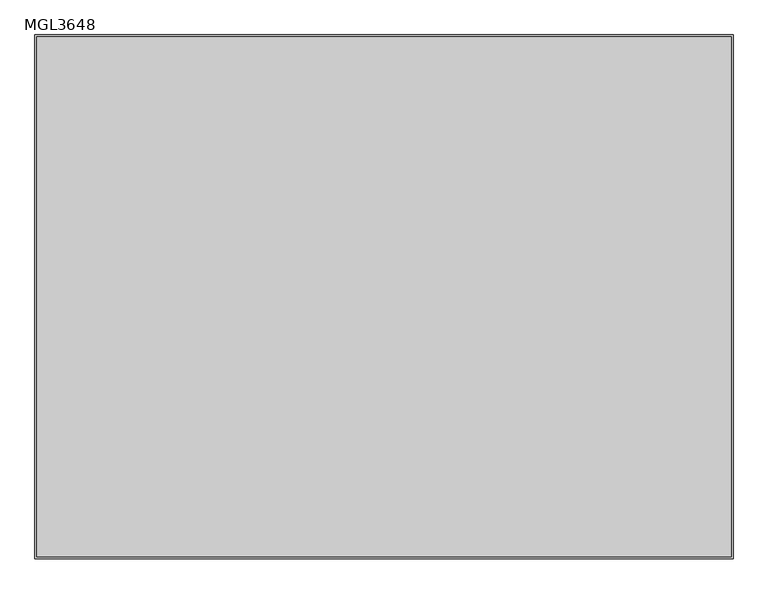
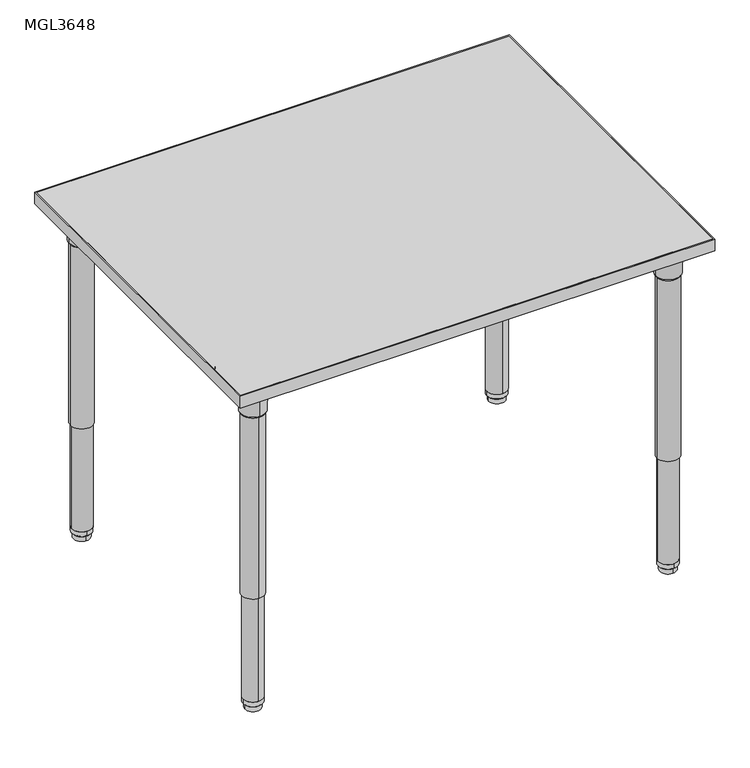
"""IFC4 building model written with IfcOpenShell, lengths in millimetres: furniture geometry, ERG-Mingle-Table-Rectangle : MGL3648."""

from ifc_helpers import new_model, si_unit, point, frame, frame_2d, origin, place, context, project, spatial, polyline, circle_curve, trimmed, segment, composite_curve, outline, extrude, source, transform, mapped, element, save
from ifc_brep_helpers import plane_surface, cylinder_surface, revolved_surface, advanced_brep


def mgl3648_3a165951(model_context):
    return source(origin(), model_context, "Body", "SolidModel", [
        advanced_brep(
        [(503.3646842, -381.0, 802.9933069), (563.4353158, -381.0, 802.9933069), (533.4, -381.0, 802.9933069), (501.256117, -381.0, 806.7580481), (565.543883, -381.0, 806.7580481), (500.3206351, -381.0, 860.1631458), (566.4793649, -381.0, 860.1631458), (496.871083, -381.0, 866.5198315), (569.928917, -381.0, 866.5198315), (496.871083, -381.0, 879.2198315), (569.928917, -381.0, 879.2198315), (533.4, -381.0, 879.2198315)],
        [
            (0, 1, circle_curve(frame((533.4, -381.0, 802.9933069), z_axis=(0.0, 0.0, -1.0), x_axis=(1.0, 0.0, 0.0)), 30.0353158)),
            (1, 2),
            (2, 0),
            (1, 0, circle_curve(frame((533.4, -381.0, 802.9933069), z_axis=(0.0, 0.0, -1.0), x_axis=(1.0, 0.0, 0.0)), 30.0353158)),
            (3, 4, circle_curve(frame((533.4, -381.0, 806.7580481), z_axis=(0.0, 0.0, -1.0), x_axis=(1.0, 0.0, 0.0)), 32.143883)),
            (4, 1),
            (0, 3),
            (4, 3, circle_curve(frame((533.4, -381.0, 806.7580481), z_axis=(0.0, 0.0, -1.0), x_axis=(1.0, 0.0, 0.0)), 32.143883)),
            (5, 6, circle_curve(frame((533.4, -381.0, 860.1631458), z_axis=(0.0, 0.0, -1.0), x_axis=(1.0, 0.0, 0.0)), 33.0793649)),
            (6, 4),
            (3, 5),
            (6, 5, circle_curve(frame((533.4, -381.0, 860.1631458), z_axis=(0.0, 0.0, -1.0), x_axis=(1.0, 0.0, 0.0)), 33.0793649)),
            (7, 8, circle_curve(frame((533.4, -381.0, 866.5198315), z_axis=(0.0, 0.0, -1.0), x_axis=(1.0, 0.0, 0.0)), 36.528917)),
            (8, 6),
            (5, 7),
            (8, 7, circle_curve(frame((533.4, -381.0, 866.5198315), z_axis=(0.0, 0.0, -1.0), x_axis=(1.0, 0.0, 0.0)), 36.528917)),
            (9, 10, circle_curve(frame((533.4, -381.0, 879.2198315), z_axis=(0.0, 0.0, -1.0), x_axis=(1.0, 0.0, 0.0)), 36.528917)),
            (10, 8),
            (7, 9),
            (10, 9, circle_curve(frame((533.4, -381.0, 879.2198315), z_axis=(0.0, 0.0, -1.0), x_axis=(1.0, 0.0, 0.0)), 36.528917)),
            (11, 10),
            (9, 11),
        ],
        [
            plane_surface(frame((533.4, -381.0, 802.9933069), z_axis=(0.0, 0.0, -1.0), x_axis=(1.0, 0.0, 0.0))),
            revolved_surface(polyline([(563.4353158, -381.0, 802.9933069), (565.543883, -381.0, 806.7580481)]), (533.4, -381.0, 879.2198315), (0.0, 0.0, 1.0)),
            revolved_surface(polyline([(565.543883, -381.0, 806.7580481), (566.4793649, -381.0, 860.1631458)]), (533.4, -381.0, 879.2198315), (0.0, 0.0, 1.0)),
            revolved_surface(polyline([(566.4793649, -381.0, 860.1631458), (569.928917, -381.0, 866.5198315)]), (533.4, -381.0, 879.2198315), (0.0, 0.0, 1.0)),
            cylinder_surface(frame((533.4, -381.0, 879.2198315), z_axis=(0.0, 0.0, 1.0), x_axis=(1.0, 0.0, 0.0)), 36.528917),
            plane_surface(frame((533.4, -381.0, 879.2198315), z_axis=(0.0, 0.0, 1.0), x_axis=(1.0, 0.0, 0.0))),
        ],
        [
            (0, [[1, 2, 3]]),
            (0, [[4, -3, -2]]),
            (1, [[5, 6, -1, 7]]),
            (1, [[8, -7, -4, -6]]),
            (2, [[9, 10, -5, 11]]),
            (2, [[12, -11, -8, -10]]),
            (3, [[13, 14, -9, 15]]),
            (3, [[16, -15, -12, -14]]),
            (4, [[17, 18, -13, 19]]),
            (4, [[20, -19, -16, -18]]),
            (5, [[21, -17, 22]]),
            (5, [[-22, -20, -21]]),
        ],
    ),
        extrude(outline(composite_curve([segment(polyline([(579.273768, -298.4223426), (579.273768, -412.1483754)]), True, "CONTINUOUS"), segment(trimmed(circle_curve(frame_2d((563.398768, -412.1483754)), 15.875), [point((579.273768, -412.1483754))], [point((563.398768, -428.0233754))], False, "CARTESIAN"), True, "CONTINUOUS"), segment(polyline([(563.398768, -428.0233754), (449.6864205, -428.0233754)]), True, "CONTINUOUS"), segment(trimmed(circle_curve(frame_2d((449.6864205, -415.3233754)), 12.7), [point((449.6864205, -428.0233754))], [point((437.0491923, -414.0622394))], False, "CARTESIAN"), True, "CONTINUOUS"), segment(trimmed(circle_curve(frame_2d((579.5486077, -428.2830117)), 143.2072406), [point((437.0491923, -414.0622394))], [point((565.3111525, -285.7852622))], False, "CARTESIAN"), True, "CONTINUOUS"), segment(trimmed(circle_curve(frame_2d((566.573768, -298.4223426)), 12.7), [point((565.3111525, -285.7852622))], [point((579.273768, -298.4223426))], False, "CARTESIAN"), True, "CONTINUOUS")], self_intersect=False)), frame((0.0, 0.0, 879.2198315), z_axis=(0.0, 0.0, 1.0), x_axis=(1.0, 0.0, 0.0)), (0.0, 0.0, 1.0), 3.4301685),
        extrude(outline(composite_curve([segment(trimmed(circle_curve(frame_2d((533.4, -381.0)), 28.575), [point((561.975, -381.0))], [point((504.825, -381.0))], False, "CARTESIAN"), True, "CONTINUOUS"), segment(trimmed(circle_curve(frame_2d((533.4, -381.0)), 28.575), [point((504.825, -381.0))], [point((561.975, -381.0))], False, "CARTESIAN"), True, "CONTINUOUS")], self_intersect=False)), frame((0.0, 0.0, 310.7876979), z_axis=(0.0, 0.0, 1.0), x_axis=(1.0, 0.0, 0.0)), (0.0, 0.0, 1.0), 495.4089866),
        extrude(outline(composite_curve([segment(trimmed(circle_curve(frame_2d((533.4, -381.0)), 25.4), [point((558.8, -381.0))], [point((508.0, -381.0))], False, "CARTESIAN"), True, "CONTINUOUS"), segment(trimmed(circle_curve(frame_2d((533.4, -381.0)), 25.4), [point((508.0, -381.0))], [point((558.8, -381.0))], False, "CARTESIAN"), True, "CONTINUOUS")], self_intersect=False)), frame((0.0, 0.0, 28.9580435), z_axis=(0.0, 0.0, 1.0), x_axis=(1.0, 0.0, 0.0)), (0.0, 0.0, 1.0), 329.1049119),
        advanced_brep(
        [(533.4, -355.7649896, 28.9580185), (533.4, -406.2350104, 28.9580185), (533.4, -381.0, 28.9580185), (533.4, -355.900761, 16.3032949), (533.4, -406.099239, 16.3032949), (533.4, -357.4160619, 14.7291007), (533.4, -404.5839381, 14.7291007), (533.4, -359.8591422, 14.7291007), (533.4, -402.1408578, 14.7291007), (533.4, -360.0521336, 0.0), (533.4, -401.9478664, 0.0), (533.4, -381.0, 0.0)],
        [
            (0, 1, circle_curve(frame((533.4, -381.0, 28.9580185), z_axis=(0.0, 0.0, 1.0), x_axis=(0.0, -1.0, 0.0)), 25.2350104)),
            (1, 2),
            (2, 0),
            (1, 0, circle_curve(frame((533.4, -381.0, 28.9580185), z_axis=(0.0, 0.0, 1.0), x_axis=(0.0, -1.0, 0.0)), 25.2350104)),
            (3, 4, circle_curve(frame((533.4, -381.0, 16.3032949), z_axis=(0.0, 0.0, 1.0), x_axis=(0.0, -1.0, 0.0)), 25.099239)),
            (4, 1),
            (0, 3),
            (4, 3, circle_curve(frame((533.4, -381.0, 16.3032949), z_axis=(0.0, 0.0, 1.0), x_axis=(0.0, -1.0, 0.0)), 25.099239)),
            (5, 6, circle_curve(frame((533.4, -381.0, 14.7291007), z_axis=(0.0, 0.0, 1.0), x_axis=(0.0, -1.0, 0.0)), 23.5839381)),
            (6, 4),
            (3, 5),
            (6, 5, circle_curve(frame((533.4, -381.0, 14.7291007), z_axis=(0.0, 0.0, 1.0), x_axis=(0.0, -1.0, 0.0)), 23.5839381)),
            (7, 8, circle_curve(frame((533.4, -381.0, 14.7291007), z_axis=(0.0, 0.0, 1.0), x_axis=(0.0, -1.0, 0.0)), 21.1408578)),
            (8, 6),
            (5, 7),
            (8, 7, circle_curve(frame((533.4, -381.0, 14.7291007), z_axis=(0.0, 0.0, 1.0), x_axis=(0.0, -1.0, 0.0)), 21.1408578)),
            (9, 10, circle_curve(frame((533.4, -381.0, 0.0), z_axis=(0.0, 0.0, 1.0), x_axis=(0.0, -1.0, 0.0)), 20.9478664)),
            (10, 8),
            (7, 9),
            (10, 9, circle_curve(frame((533.4, -381.0, 0.0), z_axis=(0.0, 0.0, 1.0), x_axis=(0.0, -1.0, 0.0)), 20.9478664)),
            (11, 10),
            (9, 11),
        ],
        [
            plane_surface(frame((533.4, -381.0, 28.9580185), z_axis=(0.0, 0.0, 1.0), x_axis=(0.0, -1.0, 0.0))),
            revolved_surface(polyline([(533.4, -406.2350104, 28.9580185), (533.4, -406.099239, 16.3032949)]), (533.4, -381.0, 0.0), (0.0, 0.0, -1.0)),
            revolved_surface(polyline([(533.4, -406.099239, 16.3032949), (533.4, -404.5839381, 14.7291007)]), (533.4, -381.0, 0.0), (0.0, 0.0, -1.0)),
            plane_surface(frame((533.4, -381.0, 14.7291007), z_axis=(0.0, 0.0, -1.0), x_axis=(0.0, -1.0, 0.0))),
            revolved_surface(polyline([(533.4, -402.1408578, 14.7291007), (533.4, -401.9478664, 0.0)]), (533.4, -381.0, 0.0), (0.0, 0.0, -1.0)),
            plane_surface(frame((533.4, -381.0, 0.0), z_axis=(0.0, 0.0, -1.0), x_axis=(0.0, -1.0, 0.0))),
        ],
        [
            (0, [[1, 2, 3]]),
            (0, [[4, -3, -2]]),
            (1, [[5, 6, -1, 7]]),
            (1, [[8, -7, -4, -6]]),
            (2, [[9, 10, -5, 11]]),
            (2, [[12, -11, -8, -10]]),
            (3, [[13, 14, -9, 15]]),
            (3, [[16, -15, -12, -14]]),
            (4, [[17, 18, -13, 19]]),
            (4, [[20, -19, -16, -18]]),
            (5, [[21, -17, 22]]),
            (5, [[-22, -20, -21]]),
        ],
    ),
        advanced_brep(
        [(-533.4, -350.9646842, 802.9933069), (-533.4, -411.0353158, 802.9933069), (-533.4, -381.0, 802.9933069), (-533.4, -348.856117, 806.7580481), (-533.4, -413.143883, 806.7580481), (-533.4, -347.9206351, 860.1631458), (-533.4, -414.0793649, 860.1631458), (-533.4, -344.471083, 866.5198315), (-533.4, -417.528917, 866.5198315), (-533.4, -344.471083, 879.2198315), (-533.4, -417.528917, 879.2198315), (-533.4, -381.0, 879.2198315)],
        [
            (0, 1, circle_curve(frame((-533.4, -381.0, 802.9933069), z_axis=(0.0, 0.0, -1.0), x_axis=(0.0, -1.0, 0.0)), 30.0353158)),
            (1, 2),
            (2, 0),
            (1, 0, circle_curve(frame((-533.4, -381.0, 802.9933069), z_axis=(0.0, 0.0, -1.0), x_axis=(0.0, -1.0, 0.0)), 30.0353158)),
            (3, 4, circle_curve(frame((-533.4, -381.0, 806.7580481), z_axis=(0.0, 0.0, -1.0), x_axis=(0.0, -1.0, 0.0)), 32.143883)),
            (4, 1),
            (0, 3),
            (4, 3, circle_curve(frame((-533.4, -381.0, 806.7580481), z_axis=(0.0, 0.0, -1.0), x_axis=(0.0, -1.0, 0.0)), 32.143883)),
            (5, 6, circle_curve(frame((-533.4, -381.0, 860.1631458), z_axis=(0.0, 0.0, -1.0), x_axis=(0.0, -1.0, 0.0)), 33.0793649)),
            (6, 4),
            (3, 5),
            (6, 5, circle_curve(frame((-533.4, -381.0, 860.1631458), z_axis=(0.0, 0.0, -1.0), x_axis=(0.0, -1.0, 0.0)), 33.0793649)),
            (7, 8, circle_curve(frame((-533.4, -381.0, 866.5198315), z_axis=(0.0, 0.0, -1.0), x_axis=(0.0, -1.0, 0.0)), 36.528917)),
            (8, 6),
            (5, 7),
            (8, 7, circle_curve(frame((-533.4, -381.0, 866.5198315), z_axis=(0.0, 0.0, -1.0), x_axis=(0.0, -1.0, 0.0)), 36.528917)),
            (9, 10, circle_curve(frame((-533.4, -381.0, 879.2198315), z_axis=(0.0, 0.0, -1.0), x_axis=(0.0, -1.0, 0.0)), 36.528917)),
            (10, 8),
            (7, 9),
            (10, 9, circle_curve(frame((-533.4, -381.0, 879.2198315), z_axis=(0.0, 0.0, -1.0), x_axis=(0.0, -1.0, 0.0)), 36.528917)),
            (11, 10),
            (9, 11),
        ],
        [
            plane_surface(frame((-533.4, -381.0, 802.9933069), z_axis=(0.0, 0.0, -1.0), x_axis=(0.0, -1.0, 0.0))),
            revolved_surface(polyline([(-533.4, -411.0353158, 802.9933069), (-533.4, -413.143883, 806.7580481)]), (-533.4, -381.0, 879.2198315), (0.0, 0.0, 1.0)),
            revolved_surface(polyline([(-533.4, -413.143883, 806.7580481), (-533.4, -414.0793649, 860.1631458)]), (-533.4, -381.0, 879.2198315), (0.0, 0.0, 1.0)),
            revolved_surface(polyline([(-533.4, -414.0793649, 860.1631458), (-533.4, -417.528917, 866.5198315)]), (-533.4, -381.0, 879.2198315), (0.0, 0.0, 1.0)),
            cylinder_surface(frame((-533.4, -381.0, 879.2198315), z_axis=(0.0, 0.0, 1.0), x_axis=(0.0, -1.0, 0.0)), 36.528917),
            plane_surface(frame((-533.4, -381.0, 879.2198315), z_axis=(0.0, 0.0, 1.0), x_axis=(0.0, -1.0, 0.0))),
        ],
        [
            (0, [[1, 2, 3]]),
            (0, [[4, -3, -2]]),
            (1, [[5, 6, -1, 7]]),
            (1, [[8, -7, -4, -6]]),
            (2, [[9, 10, -5, 11]]),
            (2, [[12, -11, -8, -10]]),
            (3, [[13, 14, -9, 15]]),
            (3, [[16, -15, -12, -14]]),
            (4, [[17, 18, -13, 19]]),
            (4, [[20, -19, -16, -18]]),
            (5, [[21, -17, 22]]),
            (5, [[-22, -20, -21]]),
        ],
    ),
        extrude(outline(composite_curve([segment(polyline([(-450.8223426, -426.873768), (-564.5483754, -426.873768)]), True, "CONTINUOUS"), segment(trimmed(circle_curve(frame_2d((-564.5483754, -410.998768)), 15.875), [point((-564.5483754, -426.873768))], [point((-580.4233754, -410.998768))], False, "CARTESIAN"), True, "CONTINUOUS"), segment(polyline([(-580.4233754, -410.998768), (-580.4233754, -297.2864205)]), True, "CONTINUOUS"), segment(trimmed(circle_curve(frame_2d((-567.7233754, -297.2864205)), 12.7), [point((-580.4233754, -297.2864205))], [point((-566.4622394, -284.6491923))], False, "CARTESIAN"), True, "CONTINUOUS"), segment(trimmed(circle_curve(frame_2d((-580.6830117, -427.1486077)), 143.2072406), [point((-566.4622394, -284.6491923))], [point((-438.1852622, -412.9111525))], False, "CARTESIAN"), True, "CONTINUOUS"), segment(trimmed(circle_curve(frame_2d((-450.8223426, -414.173768)), 12.7), [point((-438.1852622, -412.9111525))], [point((-450.8223426, -426.873768))], False, "CARTESIAN"), True, "CONTINUOUS")], self_intersect=False)), frame((0.0, 0.0, 879.2198315), z_axis=(0.0, 0.0, 1.0), x_axis=(1.0, 0.0, 0.0)), (0.0, 0.0, 1.0), 3.4301685),
        extrude(outline(composite_curve([segment(trimmed(circle_curve(frame_2d((-533.4, -381.0)), 28.575), [point((-533.4, -409.575))], [point((-533.4, -352.425))], False, "CARTESIAN"), True, "CONTINUOUS"), segment(trimmed(circle_curve(frame_2d((-533.4, -381.0)), 28.575), [point((-533.4, -352.425))], [point((-533.4, -409.575))], False, "CARTESIAN"), True, "CONTINUOUS")], self_intersect=False)), frame((0.0, 0.0, 310.7876979), z_axis=(0.0, 0.0, 1.0), x_axis=(1.0, 0.0, 0.0)), (0.0, 0.0, 1.0), 495.4089866),
        extrude(outline(composite_curve([segment(trimmed(circle_curve(frame_2d((-533.4, -381.0)), 25.4), [point((-533.4, -406.4))], [point((-533.4, -355.6))], False, "CARTESIAN"), True, "CONTINUOUS"), segment(trimmed(circle_curve(frame_2d((-533.4, -381.0)), 25.4), [point((-533.4, -355.6))], [point((-533.4, -406.4))], False, "CARTESIAN"), True, "CONTINUOUS")], self_intersect=False)), frame((0.0, 0.0, 28.9580435), z_axis=(0.0, 0.0, 1.0), x_axis=(1.0, 0.0, 0.0)), (0.0, 0.0, 1.0), 329.1049119),
        advanced_brep(
        [(-508.1649896, -381.0, 28.9580185), (-558.6350104, -381.0, 28.9580185), (-533.4, -381.0, 28.9580185), (-508.300761, -381.0, 16.3032949), (-558.499239, -381.0, 16.3032949), (-509.8160619, -381.0, 14.7291007), (-556.9839381, -381.0, 14.7291007), (-512.2591422, -381.0, 14.7291007), (-554.5408578, -381.0, 14.7291007), (-512.4521336, -381.0, 0.0), (-554.3478664, -381.0, 0.0), (-533.4, -381.0, 0.0)],
        [
            (0, 1, circle_curve(frame((-533.4, -381.0, 28.9580185), z_axis=(0.0, 0.0, 1.0), x_axis=(-1.0, 0.0, 0.0)), 25.2350104)),
            (1, 2),
            (2, 0),
            (1, 0, circle_curve(frame((-533.4, -381.0, 28.9580185), z_axis=(0.0, 0.0, 1.0), x_axis=(-1.0, 0.0, 0.0)), 25.2350104)),
            (3, 4, circle_curve(frame((-533.4, -381.0, 16.3032949), z_axis=(0.0, 0.0, 1.0), x_axis=(-1.0, 0.0, 0.0)), 25.099239)),
            (4, 1),
            (0, 3),
            (4, 3, circle_curve(frame((-533.4, -381.0, 16.3032949), z_axis=(0.0, 0.0, 1.0), x_axis=(-1.0, 0.0, 0.0)), 25.099239)),
            (5, 6, circle_curve(frame((-533.4, -381.0, 14.7291007), z_axis=(0.0, 0.0, 1.0), x_axis=(-1.0, 0.0, 0.0)), 23.5839381)),
            (6, 4),
            (3, 5),
            (6, 5, circle_curve(frame((-533.4, -381.0, 14.7291007), z_axis=(0.0, 0.0, 1.0), x_axis=(-1.0, 0.0, 0.0)), 23.5839381)),
            (7, 8, circle_curve(frame((-533.4, -381.0, 14.7291007), z_axis=(0.0, 0.0, 1.0), x_axis=(-1.0, 0.0, 0.0)), 21.1408578)),
            (8, 6),
            (5, 7),
            (8, 7, circle_curve(frame((-533.4, -381.0, 14.7291007), z_axis=(0.0, 0.0, 1.0), x_axis=(-1.0, 0.0, 0.0)), 21.1408578)),
            (9, 10, circle_curve(frame((-533.4, -381.0, 0.0), z_axis=(0.0, 0.0, 1.0), x_axis=(-1.0, 0.0, 0.0)), 20.9478664)),
            (10, 8),
            (7, 9),
            (10, 9, circle_curve(frame((-533.4, -381.0, 0.0), z_axis=(0.0, 0.0, 1.0), x_axis=(-1.0, 0.0, 0.0)), 20.9478664)),
            (11, 10),
            (9, 11),
        ],
        [
            plane_surface(frame((-533.4, -381.0, 28.9580185), z_axis=(0.0, 0.0, 1.0), x_axis=(-1.0, 0.0, 0.0))),
            revolved_surface(polyline([(-558.6350104, -381.0, 28.9580185), (-558.499239, -381.0, 16.3032949)]), (-533.4, -381.0, 0.0), (0.0, 0.0, -1.0)),
            revolved_surface(polyline([(-558.499239, -381.0, 16.3032949), (-556.9839381, -381.0, 14.7291007)]), (-533.4, -381.0, 0.0), (0.0, 0.0, -1.0)),
            plane_surface(frame((-533.4, -381.0, 14.7291007), z_axis=(0.0, 0.0, -1.0), x_axis=(-1.0, 0.0, 0.0))),
            revolved_surface(polyline([(-554.5408578, -381.0, 14.7291007), (-554.3478664, -381.0, 0.0)]), (-533.4, -381.0, 0.0), (0.0, 0.0, -1.0)),
            plane_surface(frame((-533.4, -381.0, 0.0), z_axis=(0.0, 0.0, -1.0), x_axis=(-1.0, 0.0, 0.0))),
        ],
        [
            (0, [[1, 2, 3]]),
            (0, [[4, -3, -2]]),
            (1, [[5, 6, -1, 7]]),
            (1, [[8, -7, -4, -6]]),
            (2, [[9, 10, -5, 11]]),
            (2, [[12, -11, -8, -10]]),
            (3, [[13, 14, -9, 15]]),
            (3, [[16, -15, -12, -14]]),
            (4, [[17, 18, -13, 19]]),
            (4, [[20, -19, -16, -18]]),
            (5, [[21, -17, 22]]),
            (5, [[-22, -20, -21]]),
        ],
    ),
        advanced_brep(
        [(533.4, 350.9646842, 802.9933069), (533.4, 411.0353158, 802.9933069), (533.4, 381.0, 802.9933069), (533.4, 348.856117, 806.7580481), (533.4, 413.143883, 806.7580481), (533.4, 347.9206351, 860.1631458), (533.4, 414.0793649, 860.1631458), (533.4, 344.471083, 866.5198315), (533.4, 417.528917, 866.5198315), (533.4, 344.471083, 879.2198315), (533.4, 417.528917, 879.2198315), (533.4, 381.0, 879.2198315)],
        [
            (0, 1, circle_curve(frame((533.4, 381.0, 802.9933069), z_axis=(0.0, 0.0, -1.0), x_axis=(0.0, 1.0, 0.0)), 30.0353158)),
            (1, 2),
            (2, 0),
            (1, 0, circle_curve(frame((533.4, 381.0, 802.9933069), z_axis=(0.0, 0.0, -1.0), x_axis=(0.0, 1.0, 0.0)), 30.0353158)),
            (3, 4, circle_curve(frame((533.4, 381.0, 806.7580481), z_axis=(0.0, 0.0, -1.0), x_axis=(0.0, 1.0, 0.0)), 32.143883)),
            (4, 1),
            (0, 3),
            (4, 3, circle_curve(frame((533.4, 381.0, 806.7580481), z_axis=(0.0, 0.0, -1.0), x_axis=(0.0, 1.0, 0.0)), 32.143883)),
            (5, 6, circle_curve(frame((533.4, 381.0, 860.1631458), z_axis=(0.0, 0.0, -1.0), x_axis=(0.0, 1.0, 0.0)), 33.0793649)),
            (6, 4),
            (3, 5),
            (6, 5, circle_curve(frame((533.4, 381.0, 860.1631458), z_axis=(0.0, 0.0, -1.0), x_axis=(0.0, 1.0, 0.0)), 33.0793649)),
            (7, 8, circle_curve(frame((533.4, 381.0, 866.5198315), z_axis=(0.0, 0.0, -1.0), x_axis=(0.0, 1.0, 0.0)), 36.528917)),
            (8, 6),
            (5, 7),
            (8, 7, circle_curve(frame((533.4, 381.0, 866.5198315), z_axis=(0.0, 0.0, -1.0), x_axis=(0.0, 1.0, 0.0)), 36.528917)),
            (9, 10, circle_curve(frame((533.4, 381.0, 879.2198315), z_axis=(0.0, 0.0, -1.0), x_axis=(0.0, 1.0, 0.0)), 36.528917)),
            (10, 8),
            (7, 9),
            (10, 9, circle_curve(frame((533.4, 381.0, 879.2198315), z_axis=(0.0, 0.0, -1.0), x_axis=(0.0, 1.0, 0.0)), 36.528917)),
            (11, 10),
            (9, 11),
        ],
        [
            plane_surface(frame((533.4, 381.0, 802.9933069), z_axis=(0.0, 0.0, -1.0), x_axis=(0.0, 1.0, 0.0))),
            revolved_surface(polyline([(533.4, 411.0353158, 802.9933069), (533.4, 413.143883, 806.7580481)]), (533.4, 381.0, 879.2198315), (0.0, 0.0, 1.0)),
            revolved_surface(polyline([(533.4, 413.143883, 806.7580481), (533.4, 414.0793649, 860.1631458)]), (533.4, 381.0, 879.2198315), (0.0, 0.0, 1.0)),
            revolved_surface(polyline([(533.4, 414.0793649, 860.1631458), (533.4, 417.528917, 866.5198315)]), (533.4, 381.0, 879.2198315), (0.0, 0.0, 1.0)),
            cylinder_surface(frame((533.4, 381.0, 879.2198315), z_axis=(0.0, 0.0, 1.0), x_axis=(0.0, 1.0, 0.0)), 36.528917),
            plane_surface(frame((533.4, 381.0, 879.2198315), z_axis=(0.0, 0.0, 1.0), x_axis=(0.0, 1.0, 0.0))),
        ],
        [
            (0, [[1, 2, 3]]),
            (0, [[4, -3, -2]]),
            (1, [[5, 6, -1, 7]]),
            (1, [[8, -7, -4, -6]]),
            (2, [[9, 10, -5, 11]]),
            (2, [[12, -11, -8, -10]]),
            (3, [[13, 14, -9, 15]]),
            (3, [[16, -15, -12, -14]]),
            (4, [[17, 18, -13, 19]]),
            (4, [[20, -19, -16, -18]]),
            (5, [[21, -17, 22]]),
            (5, [[-22, -20, -21]]),
        ],
    ),
        extrude(outline(composite_curve([segment(polyline([(450.8223426, 426.873768), (564.5483754, 426.873768)]), True, "CONTINUOUS"), segment(trimmed(circle_curve(frame_2d((564.5483754, 410.998768)), 15.875), [point((564.5483754, 426.873768))], [point((580.4233754, 410.998768))], False, "CARTESIAN"), True, "CONTINUOUS"), segment(polyline([(580.4233754, 410.998768), (580.4233754, 297.2864205)]), True, "CONTINUOUS"), segment(trimmed(circle_curve(frame_2d((567.7233754, 297.2864205)), 12.7), [point((580.4233754, 297.2864205))], [point((566.4622394, 284.6491923))], False, "CARTESIAN"), True, "CONTINUOUS"), segment(trimmed(circle_curve(frame_2d((580.6830117, 427.1486077)), 143.2072406), [point((566.4622394, 284.6491923))], [point((438.1852622, 412.9111525))], False, "CARTESIAN"), True, "CONTINUOUS"), segment(trimmed(circle_curve(frame_2d((450.8223426, 414.173768)), 12.7), [point((438.1852622, 412.9111525))], [point((450.8223426, 426.873768))], False, "CARTESIAN"), True, "CONTINUOUS")], self_intersect=False)), frame((0.0, 0.0, 879.2198315), z_axis=(0.0, 0.0, 1.0), x_axis=(1.0, 0.0, 0.0)), (0.0, 0.0, 1.0), 3.4301685),
        extrude(outline(composite_curve([segment(trimmed(circle_curve(frame_2d((533.4, 381.0)), 28.575), [point((533.4, 409.575))], [point((533.4, 352.425))], False, "CARTESIAN"), True, "CONTINUOUS"), segment(trimmed(circle_curve(frame_2d((533.4, 381.0)), 28.575), [point((533.4, 352.425))], [point((533.4, 409.575))], False, "CARTESIAN"), True, "CONTINUOUS")], self_intersect=False)), frame((0.0, 0.0, 310.7876979), z_axis=(0.0, 0.0, 1.0), x_axis=(1.0, 0.0, 0.0)), (0.0, 0.0, 1.0), 495.4089866),
        extrude(outline(composite_curve([segment(trimmed(circle_curve(frame_2d((533.4, 381.0)), 25.4), [point((533.4, 406.4))], [point((533.4, 355.6))], False, "CARTESIAN"), True, "CONTINUOUS"), segment(trimmed(circle_curve(frame_2d((533.4, 381.0)), 25.4), [point((533.4, 355.6))], [point((533.4, 406.4))], False, "CARTESIAN"), True, "CONTINUOUS")], self_intersect=False)), frame((0.0, 0.0, 28.9580435), z_axis=(0.0, 0.0, 1.0), x_axis=(1.0, 0.0, 0.0)), (0.0, 0.0, 1.0), 329.1049119),
        advanced_brep(
        [(508.1649896, 381.0, 28.9580185), (558.6350104, 381.0, 28.9580185), (533.4, 381.0, 28.9580185), (508.300761, 381.0, 16.3032949), (558.499239, 381.0, 16.3032949), (509.8160619, 381.0, 14.7291007), (556.9839381, 381.0, 14.7291007), (512.2591422, 381.0, 14.7291007), (554.5408578, 381.0, 14.7291007), (512.4521336, 381.0, 0.0), (554.3478664, 381.0, 0.0), (533.4, 381.0, 0.0)],
        [
            (0, 1, circle_curve(frame((533.4, 381.0, 28.9580185), z_axis=(0.0, 0.0, 1.0), x_axis=(1.0, 0.0, 0.0)), 25.2350104)),
            (1, 2),
            (2, 0),
            (1, 0, circle_curve(frame((533.4, 381.0, 28.9580185), z_axis=(0.0, 0.0, 1.0), x_axis=(1.0, 0.0, 0.0)), 25.2350104)),
            (3, 4, circle_curve(frame((533.4, 381.0, 16.3032949), z_axis=(0.0, 0.0, 1.0), x_axis=(1.0, 0.0, 0.0)), 25.099239)),
            (4, 1),
            (0, 3),
            (4, 3, circle_curve(frame((533.4, 381.0, 16.3032949), z_axis=(0.0, 0.0, 1.0), x_axis=(1.0, 0.0, 0.0)), 25.099239)),
            (5, 6, circle_curve(frame((533.4, 381.0, 14.7291007), z_axis=(0.0, 0.0, 1.0), x_axis=(1.0, 0.0, 0.0)), 23.5839381)),
            (6, 4),
            (3, 5),
            (6, 5, circle_curve(frame((533.4, 381.0, 14.7291007), z_axis=(0.0, 0.0, 1.0), x_axis=(1.0, 0.0, 0.0)), 23.5839381)),
            (7, 8, circle_curve(frame((533.4, 381.0, 14.7291007), z_axis=(0.0, 0.0, 1.0), x_axis=(1.0, 0.0, 0.0)), 21.1408578)),
            (8, 6),
            (5, 7),
            (8, 7, circle_curve(frame((533.4, 381.0, 14.7291007), z_axis=(0.0, 0.0, 1.0), x_axis=(1.0, 0.0, 0.0)), 21.1408578)),
            (9, 10, circle_curve(frame((533.4, 381.0, 0.0), z_axis=(0.0, 0.0, 1.0), x_axis=(1.0, 0.0, 0.0)), 20.9478664)),
            (10, 8),
            (7, 9),
            (10, 9, circle_curve(frame((533.4, 381.0, 0.0), z_axis=(0.0, 0.0, 1.0), x_axis=(1.0, 0.0, 0.0)), 20.9478664)),
            (11, 10),
            (9, 11),
        ],
        [
            plane_surface(frame((533.4, 381.0, 28.9580185), z_axis=(0.0, 0.0, 1.0), x_axis=(1.0, 0.0, 0.0))),
            revolved_surface(polyline([(558.6350104, 381.0, 28.9580185), (558.499239, 381.0, 16.3032949)]), (533.4, 381.0, 0.0), (0.0, 0.0, -1.0)),
            revolved_surface(polyline([(558.499239, 381.0, 16.3032949), (556.9839381, 381.0, 14.7291007)]), (533.4, 381.0, 0.0), (0.0, 0.0, -1.0)),
            plane_surface(frame((533.4, 381.0, 14.7291007), z_axis=(0.0, 0.0, -1.0), x_axis=(1.0, 0.0, 0.0))),
            revolved_surface(polyline([(554.5408578, 381.0, 14.7291007), (554.3478664, 381.0, 0.0)]), (533.4, 381.0, 0.0), (0.0, 0.0, -1.0)),
            plane_surface(frame((533.4, 381.0, 0.0), z_axis=(0.0, 0.0, -1.0), x_axis=(1.0, 0.0, 0.0))),
        ],
        [
            (0, [[1, 2, 3]]),
            (0, [[4, -3, -2]]),
            (1, [[5, 6, -1, 7]]),
            (1, [[8, -7, -4, -6]]),
            (2, [[9, 10, -5, 11]]),
            (2, [[12, -11, -8, -10]]),
            (3, [[13, 14, -9, 15]]),
            (3, [[16, -15, -12, -14]]),
            (4, [[17, 18, -13, 19]]),
            (4, [[20, -19, -16, -18]]),
            (5, [[21, -17, 22]]),
            (5, [[-22, -20, -21]]),
        ],
    ),
        advanced_brep(
        [(-503.3646842, 381.0, 802.9933069), (-563.4353158, 381.0, 802.9933069), (-533.4, 381.0, 802.9933069), (-501.256117, 381.0, 806.7580481), (-565.543883, 381.0, 806.7580481), (-500.3206351, 381.0, 860.1631458), (-566.4793649, 381.0, 860.1631458), (-496.871083, 381.0, 866.5198315), (-569.928917, 381.0, 866.5198315), (-496.871083, 381.0, 879.2198315), (-569.928917, 381.0, 879.2198315), (-533.4, 381.0, 879.2198315)],
        [
            (0, 1, circle_curve(frame((-533.4, 381.0, 802.9933069), z_axis=(0.0, 0.0, -1.0), x_axis=(-1.0, 0.0, 0.0)), 30.0353158)),
            (1, 2),
            (2, 0),
            (1, 0, circle_curve(frame((-533.4, 381.0, 802.9933069), z_axis=(0.0, 0.0, -1.0), x_axis=(-1.0, 0.0, 0.0)), 30.0353158)),
            (3, 4, circle_curve(frame((-533.4, 381.0, 806.7580481), z_axis=(0.0, 0.0, -1.0), x_axis=(-1.0, 0.0, 0.0)), 32.143883)),
            (4, 1),
            (0, 3),
            (4, 3, circle_curve(frame((-533.4, 381.0, 806.7580481), z_axis=(0.0, 0.0, -1.0), x_axis=(-1.0, 0.0, 0.0)), 32.143883)),
            (5, 6, circle_curve(frame((-533.4, 381.0, 860.1631458), z_axis=(0.0, 0.0, -1.0), x_axis=(-1.0, 0.0, 0.0)), 33.0793649)),
            (6, 4),
            (3, 5),
            (6, 5, circle_curve(frame((-533.4, 381.0, 860.1631458), z_axis=(0.0, 0.0, -1.0), x_axis=(-1.0, 0.0, 0.0)), 33.0793649)),
            (7, 8, circle_curve(frame((-533.4, 381.0, 866.5198315), z_axis=(0.0, 0.0, -1.0), x_axis=(-1.0, 0.0, 0.0)), 36.528917)),
            (8, 6),
            (5, 7),
            (8, 7, circle_curve(frame((-533.4, 381.0, 866.5198315), z_axis=(0.0, 0.0, -1.0), x_axis=(-1.0, 0.0, 0.0)), 36.528917)),
            (9, 10, circle_curve(frame((-533.4, 381.0, 879.2198315), z_axis=(0.0, 0.0, -1.0), x_axis=(-1.0, 0.0, 0.0)), 36.528917)),
            (10, 8),
            (7, 9),
            (10, 9, circle_curve(frame((-533.4, 381.0, 879.2198315), z_axis=(0.0, 0.0, -1.0), x_axis=(-1.0, 0.0, 0.0)), 36.528917)),
            (11, 10),
            (9, 11),
        ],
        [
            plane_surface(frame((-533.4, 381.0, 802.9933069), z_axis=(0.0, 0.0, -1.0), x_axis=(-1.0, 0.0, 0.0))),
            revolved_surface(polyline([(-563.4353158, 381.0, 802.9933069), (-565.543883, 381.0, 806.7580481)]), (-533.4, 381.0, 879.2198315), (0.0, 0.0, 1.0)),
            revolved_surface(polyline([(-565.543883, 381.0, 806.7580481), (-566.4793649, 381.0, 860.1631458)]), (-533.4, 381.0, 879.2198315), (0.0, 0.0, 1.0)),
            revolved_surface(polyline([(-566.4793649, 381.0, 860.1631458), (-569.928917, 381.0, 866.5198315)]), (-533.4, 381.0, 879.2198315), (0.0, 0.0, 1.0)),
            cylinder_surface(frame((-533.4, 381.0, 879.2198315), z_axis=(0.0, 0.0, 1.0), x_axis=(-1.0, 0.0, 0.0)), 36.528917),
            plane_surface(frame((-533.4, 381.0, 879.2198315), z_axis=(0.0, 0.0, 1.0), x_axis=(-1.0, 0.0, 0.0))),
        ],
        [
            (0, [[1, 2, 3]]),
            (0, [[4, -3, -2]]),
            (1, [[5, 6, -1, 7]]),
            (1, [[8, -7, -4, -6]]),
            (2, [[9, 10, -5, 11]]),
            (2, [[12, -11, -8, -10]]),
            (3, [[13, 14, -9, 15]]),
            (3, [[16, -15, -12, -14]]),
            (4, [[17, 18, -13, 19]]),
            (4, [[20, -19, -16, -18]]),
            (5, [[21, -17, 22]]),
            (5, [[-22, -20, -21]]),
        ],
    ),
        extrude(outline(composite_curve([segment(polyline([(-579.273768, 298.4223426), (-579.273768, 412.1483754)]), True, "CONTINUOUS"), segment(trimmed(circle_curve(frame_2d((-563.398768, 412.1483754)), 15.875), [point((-579.273768, 412.1483754))], [point((-563.398768, 428.0233754))], False, "CARTESIAN"), True, "CONTINUOUS"), segment(polyline([(-563.398768, 428.0233754), (-449.6864205, 428.0233754)]), True, "CONTINUOUS"), segment(trimmed(circle_curve(frame_2d((-449.6864205, 415.3233754)), 12.7), [point((-449.6864205, 428.0233754))], [point((-437.0491923, 414.0622394))], False, "CARTESIAN"), True, "CONTINUOUS"), segment(trimmed(circle_curve(frame_2d((-579.5486077, 428.2830117)), 143.2072406), [point((-437.0491923, 414.0622394))], [point((-565.3111525, 285.7852622))], False, "CARTESIAN"), True, "CONTINUOUS"), segment(trimmed(circle_curve(frame_2d((-566.573768, 298.4223426)), 12.7), [point((-565.3111525, 285.7852622))], [point((-579.273768, 298.4223426))], False, "CARTESIAN"), True, "CONTINUOUS")], self_intersect=False)), frame((0.0, 0.0, 879.2198315), z_axis=(0.0, 0.0, 1.0), x_axis=(1.0, 0.0, 0.0)), (0.0, 0.0, 1.0), 3.4301685),
        extrude(outline(composite_curve([segment(trimmed(circle_curve(frame_2d((-533.4, 381.0)), 28.575), [point((-561.975, 381.0))], [point((-504.825, 381.0))], False, "CARTESIAN"), True, "CONTINUOUS"), segment(trimmed(circle_curve(frame_2d((-533.4, 381.0)), 28.575), [point((-504.825, 381.0))], [point((-561.975, 381.0))], False, "CARTESIAN"), True, "CONTINUOUS")], self_intersect=False)), frame((0.0, 0.0, 310.7876979), z_axis=(0.0, 0.0, 1.0), x_axis=(1.0, 0.0, 0.0)), (0.0, 0.0, 1.0), 495.4089866),
        extrude(outline(composite_curve([segment(trimmed(circle_curve(frame_2d((-533.4, 381.0)), 25.4), [point((-558.8, 381.0))], [point((-508.0, 381.0))], False, "CARTESIAN"), True, "CONTINUOUS"), segment(trimmed(circle_curve(frame_2d((-533.4, 381.0)), 25.4), [point((-508.0, 381.0))], [point((-558.8, 381.0))], False, "CARTESIAN"), True, "CONTINUOUS")], self_intersect=False)), frame((0.0, 0.0, 28.9580435), z_axis=(0.0, 0.0, 1.0), x_axis=(1.0, 0.0, 0.0)), (0.0, 0.0, 1.0), 329.1049119),
        advanced_brep(
        [(-533.4, 355.7649896, 28.9580185), (-533.4, 406.2350104, 28.9580185), (-533.4, 381.0, 28.9580185), (-533.4, 355.900761, 16.3032949), (-533.4, 406.099239, 16.3032949), (-533.4, 357.4160619, 14.7291007), (-533.4, 404.5839381, 14.7291007), (-533.4, 359.8591422, 14.7291007), (-533.4, 402.1408578, 14.7291007), (-533.4, 360.0521336, 0.0), (-533.4, 401.9478664, 0.0), (-533.4, 381.0, 0.0)],
        [
            (0, 1, circle_curve(frame((-533.4, 381.0, 28.9580185), z_axis=(0.0, 0.0, 1.0), x_axis=(0.0, 1.0, 0.0)), 25.2350104)),
            (1, 2),
            (2, 0),
            (1, 0, circle_curve(frame((-533.4, 381.0, 28.9580185), z_axis=(0.0, 0.0, 1.0), x_axis=(0.0, 1.0, 0.0)), 25.2350104)),
            (3, 4, circle_curve(frame((-533.4, 381.0, 16.3032949), z_axis=(0.0, 0.0, 1.0), x_axis=(0.0, 1.0, 0.0)), 25.099239)),
            (4, 1),
            (0, 3),
            (4, 3, circle_curve(frame((-533.4, 381.0, 16.3032949), z_axis=(0.0, 0.0, 1.0), x_axis=(0.0, 1.0, 0.0)), 25.099239)),
            (5, 6, circle_curve(frame((-533.4, 381.0, 14.7291007), z_axis=(0.0, 0.0, 1.0), x_axis=(0.0, 1.0, 0.0)), 23.5839381)),
            (6, 4),
            (3, 5),
            (6, 5, circle_curve(frame((-533.4, 381.0, 14.7291007), z_axis=(0.0, 0.0, 1.0), x_axis=(0.0, 1.0, 0.0)), 23.5839381)),
            (7, 8, circle_curve(frame((-533.4, 381.0, 14.7291007), z_axis=(0.0, 0.0, 1.0), x_axis=(0.0, 1.0, 0.0)), 21.1408578)),
            (8, 6),
            (5, 7),
            (8, 7, circle_curve(frame((-533.4, 381.0, 14.7291007), z_axis=(0.0, 0.0, 1.0), x_axis=(0.0, 1.0, 0.0)), 21.1408578)),
            (9, 10, circle_curve(frame((-533.4, 381.0, 0.0), z_axis=(0.0, 0.0, 1.0), x_axis=(0.0, 1.0, 0.0)), 20.9478664)),
            (10, 8),
            (7, 9),
            (10, 9, circle_curve(frame((-533.4, 381.0, 0.0), z_axis=(0.0, 0.0, 1.0), x_axis=(0.0, 1.0, 0.0)), 20.9478664)),
            (11, 10),
            (9, 11),
        ],
        [
            plane_surface(frame((-533.4, 381.0, 28.9580185), z_axis=(0.0, 0.0, 1.0), x_axis=(0.0, 1.0, 0.0))),
            revolved_surface(polyline([(-533.4, 406.2350104, 28.9580185), (-533.4, 406.099239, 16.3032949)]), (-533.4, 381.0, 0.0), (0.0, 0.0, -1.0)),
            revolved_surface(polyline([(-533.4, 406.099239, 16.3032949), (-533.4, 404.5839381, 14.7291007)]), (-533.4, 381.0, 0.0), (0.0, 0.0, -1.0)),
            plane_surface(frame((-533.4, 381.0, 14.7291007), z_axis=(0.0, 0.0, -1.0), x_axis=(0.0, 1.0, 0.0))),
            revolved_surface(polyline([(-533.4, 402.1408578, 14.7291007), (-533.4, 401.9478664, 0.0)]), (-533.4, 381.0, 0.0), (0.0, 0.0, -1.0)),
            plane_surface(frame((-533.4, 381.0, 0.0), z_axis=(0.0, 0.0, -1.0), x_axis=(0.0, 1.0, 0.0))),
        ],
        [
            (0, [[1, 2, 3]]),
            (0, [[4, -3, -2]]),
            (1, [[5, 6, -1, 7]]),
            (1, [[8, -7, -4, -6]]),
            (2, [[9, 10, -5, 11]]),
            (2, [[12, -11, -8, -10]]),
            (3, [[13, 14, -9, 15]]),
            (3, [[16, -15, -12, -14]]),
            (4, [[17, 18, -13, 19]]),
            (4, [[20, -19, -16, -18]]),
            (5, [[21, -17, 22]]),
            (5, [[-22, -20, -21]]),
        ],
    ),
        extrude(outline(polyline([(-606.425, 454.025), (606.425, 454.025), (606.425, -454.025), (-606.425, -454.025), (-606.425, 454.025)])), frame((0.0, 0.0, 882.65), z_axis=(0.0, 0.0, 1.0), x_axis=(1.0, 0.0, 0.0)), (0.0, 0.0, 1.0), 31.75),
        extrude(outline(polyline([(609.6, -457.2), (-609.6, -457.2), (-609.6, 457.2), (609.6, 457.2), (609.6, -457.2)]), holes=[polyline([(606.425, 454.025), (-606.425, 454.025), (-606.425, -454.025), (606.425, -454.025), (606.425, 454.025)])]), frame((0.0, 0.0, 882.65), z_axis=(0.0, 0.0, 1.0), x_axis=(1.0, 0.0, 0.0)), (0.0, 0.0, 1.0), 31.75),
    ])


if __name__ == "__main__":
    model = new_model("IFC4")
    model_context = context("Model", 3, world=origin())
    ifc_project = project(units=[si_unit("LENGTHUNIT", "METRE", prefix="MILLI")], contexts=[model_context])
    site = spatial("IfcSite", under=ifc_project)
    building = spatial("IfcBuilding", under=site)
    placement = place(None, origin())
    mgl3648_shape = mgl3648_3a165951(model_context)
    element("IfcFurniture", 1, ObjectType="ERG-Mingle-Table-Rectangle : MGL3648", at=placement, inside=building, context=model_context, shape_type="MappedRepresentation", body=[
        mapped(mgl3648_shape, transform((0.0, 0.0, 0.0), x_axis=(1.0, 0.0, 0.0), y_axis=(0.0, 1.0, 0.0), z_axis=(0.0, 0.0, 1.0))),
    ])
    save(model, "model.ifc")
